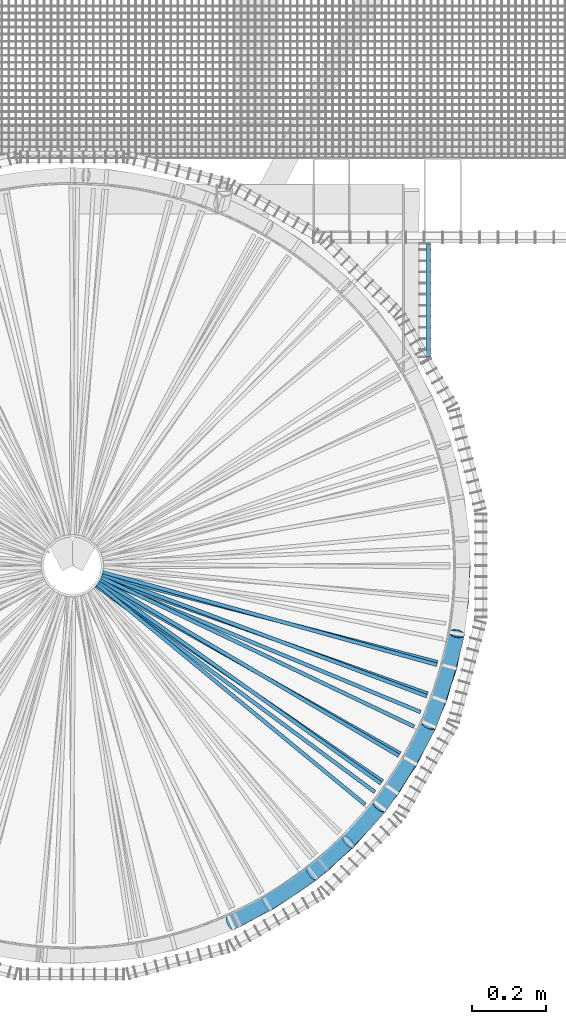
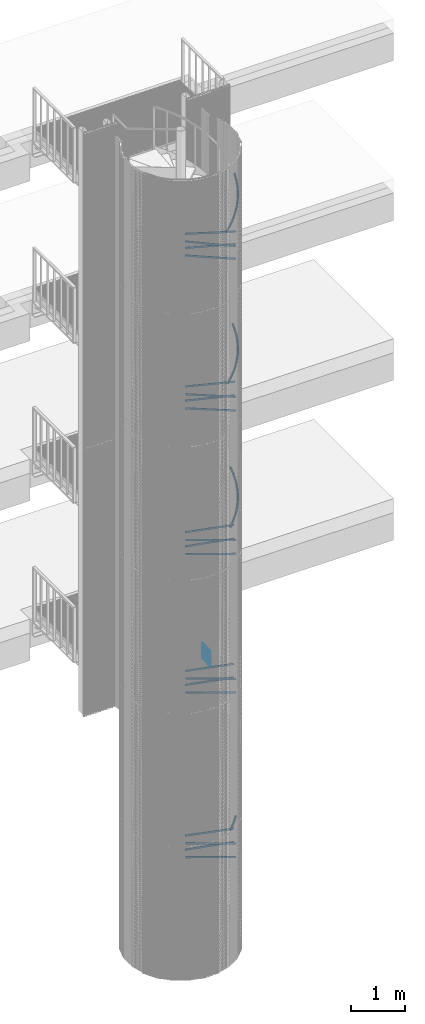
# One storey, part 260 of 1148: 28 beams, 13 members, 25 elements without a shape of their own.
"""IFC2X3 building model written with IfcOpenShell, lengths in millimetres."""

from ifc_helpers import new_model, entity, si_unit, frame, origin_with_axes, origin_2d_with_axis, place, context, subcontext, project, spatial, rectangle, extrude, material, type_object, element, aggregate, save


model = new_model("IFC2X3")

# Units and contexts
model_context = context("Model", 3, precision=1e-05, world=origin_with_axes())
body_context = subcontext(model_context, "Body", "Model", "MODEL_VIEW")
ifc_project = project(units=[si_unit("LENGTHUNIT", "METRE", prefix="MILLI"), si_unit("AREAUNIT", "SQUARE_METRE"), si_unit("VOLUMEUNIT", "CUBIC_METRE"), si_unit("MASSUNIT", "GRAM", prefix="KILO"), si_unit("TIMEUNIT", "SECOND"), si_unit("PLANEANGLEUNIT", "RADIAN"), si_unit("SOLIDANGLEUNIT", "STERADIAN"), si_unit("THERMODYNAMICTEMPERATUREUNIT", "DEGREE_CELSIUS"), si_unit("LUMINOUSINTENSITYUNIT", "LUMEN")], contexts=[model_context])

# Site, building, storey
site_placement = place(None, origin_with_axes())
site = spatial("IfcSite", under=ifc_project, at=site_placement, Name="Undefined", CompositionType="ELEMENT")
building_placement = place(site_placement, origin_with_axes())
building = spatial("IfcBuilding", under=site, at=building_placement, Name="Undefined", CompositionType="ELEMENT")
storey_placement = place(building_placement, origin_with_axes())
storey = spatial("IfcBuildingStorey", under=building, at=storey_placement, Name="Undefined", CompositionType="ELEMENT", Elevation=0.0)

# Assembly, beam
assembly_1_placement = place(storey_placement, origin_with_axes())
assembly_1 = element("IfcElementAssembly", 1, at=assembly_1_placement, inside=storey, AssemblyPlace="NOTDEFINED", PredefinedType="NOTDEFINED")
ifc_material = material(Name="STEEL/S235JR")
beam_type_1 = type_object("IfcBeamType", Name="PL2*10", PredefinedType="NOTDEFINED")
beam_1_placement = place(assembly_1_placement, frame((961.586915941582, 564.782669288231, 5950.0), z_axis=(1.0, 0.0, 0.0), x_axis=(0.0, 1.0, 0.0)))
beam_1 = element("IfcBeam", 2, at=beam_1_placement, type_object=beam_type_1, material=ifc_material, Name="ENTRETOISE", context=body_context, shape_type="SweptSolid", body=[
    extrude(rectangle(XDim=2.0, YDim=10.0, at=origin_2d_with_axis()), frame((303.999999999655, 0.0, 0.0), z_axis=(-1.0, 0.0, 0.0), x_axis=(0.0, -1.0, 0.0)), (0.0, 0.0, 1.0), 304.0),
])
aggregate(assembly_1, [beam_1])

assembly_2_placement = place(storey_placement, origin_with_axes())
assembly_2 = element("IfcElementAssembly", 3, at=assembly_2_placement, inside=storey, AssemblyPlace="NOTDEFINED", PredefinedType="NOTDEFINED")
beam_2_placement = place(assembly_2_placement, frame((961.586915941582, 564.782669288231, 5900.0), z_axis=(1.0, 0.0, 0.0), x_axis=(0.0, 1.0, 0.0)))
beam_2 = element("IfcBeam", 4, at=beam_2_placement, type_object=beam_type_1, material=ifc_material, Name="ENTRETOISE", context=body_context, shape_type="SweptSolid", body=[
    extrude(rectangle(XDim=2.0, YDim=10.0, at=origin_2d_with_axis()), frame((303.999999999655, 0.0, 0.0), z_axis=(-1.0, 0.0, 0.0), x_axis=(0.0, -1.0, 0.0)), (0.0, 0.0, 1.0), 304.0),
])
aggregate(assembly_2, [beam_2])

assembly_3_placement = place(storey_placement, origin_with_axes())
assembly_3 = element("IfcElementAssembly", 5, at=assembly_3_placement, inside=storey, AssemblyPlace="NOTDEFINED", PredefinedType="NOTDEFINED")
beam_3_placement = place(assembly_3_placement, frame((961.586915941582, 564.782669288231, 5850.0), z_axis=(1.0, 0.0, 0.0), x_axis=(0.0, 1.0, 0.0)))
beam_3 = element("IfcBeam", 6, at=beam_3_placement, type_object=beam_type_1, material=ifc_material, Name="ENTRETOISE", context=body_context, shape_type="SweptSolid", body=[
    extrude(rectangle(XDim=2.0, YDim=10.0, at=origin_2d_with_axis()), frame((303.999999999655, 0.0, 0.0), z_axis=(-1.0, 0.0, 0.0), x_axis=(0.0, -1.0, 0.0)), (0.0, 0.0, 1.0), 304.0),
])
aggregate(assembly_3, [beam_3])

assembly_4_placement = place(storey_placement, origin_with_axes())
assembly_4 = element("IfcElementAssembly", 7, at=assembly_4_placement, inside=storey, AssemblyPlace="NOTDEFINED", PredefinedType="NOTDEFINED")
beam_4_placement = place(assembly_4_placement, frame((961.586915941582, 564.782669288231, 5800.0), z_axis=(1.0, 0.0, 0.0), x_axis=(0.0, 1.0, 0.0)))
beam_4 = element("IfcBeam", 8, at=beam_4_placement, type_object=beam_type_1, material=ifc_material, Name="ENTRETOISE", context=body_context, shape_type="SweptSolid", body=[
    extrude(rectangle(XDim=2.0, YDim=10.0, at=origin_2d_with_axis()), frame((303.999999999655, 0.0, 0.0), z_axis=(-1.0, 0.0, 0.0), x_axis=(0.0, -1.0, 0.0)), (0.0, 0.0, 1.0), 304.0),
])
aggregate(assembly_4, [beam_4])

assembly_5_placement = place(storey_placement, origin_with_axes())
assembly_5 = element("IfcElementAssembly", 9, at=assembly_5_placement, inside=storey, AssemblyPlace="NOTDEFINED", PredefinedType="NOTDEFINED")
beam_5_placement = place(assembly_5_placement, frame((961.586915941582, 564.782669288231, 5750.0), z_axis=(1.0, 0.0, 0.0), x_axis=(0.0, 1.0, 0.0)))
beam_5 = element("IfcBeam", 10, at=beam_5_placement, type_object=beam_type_1, material=ifc_material, Name="ENTRETOISE", context=body_context, shape_type="SweptSolid", body=[
    extrude(rectangle(XDim=2.0, YDim=10.0, at=origin_2d_with_axis()), frame((303.999999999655, 0.0, 0.0), z_axis=(-1.0, 0.0, 0.0), x_axis=(0.0, -1.0, 0.0)), (0.0, 0.0, 1.0), 304.0),
])
aggregate(assembly_5, [beam_5])

assembly_6_placement = place(storey_placement, origin_with_axes())
assembly_6 = element("IfcElementAssembly", 11, at=assembly_6_placement, inside=storey, AssemblyPlace="NOTDEFINED", PredefinedType="NOTDEFINED")
beam_6_placement = place(assembly_6_placement, frame((961.586915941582, 564.782669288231, 5700.0), z_axis=(1.0, 0.0, 0.0), x_axis=(0.0, 1.0, 0.0)))
beam_6 = element("IfcBeam", 12, at=beam_6_placement, type_object=beam_type_1, material=ifc_material, Name="ENTRETOISE", context=body_context, shape_type="SweptSolid", body=[
    extrude(rectangle(XDim=2.0, YDim=10.0, at=origin_2d_with_axis()), frame((303.999999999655, 0.0, 0.0), z_axis=(-1.0, 0.0, 0.0), x_axis=(0.0, -1.0, 0.0)), (0.0, 0.0, 1.0), 304.0),
])
aggregate(assembly_6, [beam_6])

assembly_7_placement = place(storey_placement, origin_with_axes())
assembly_7 = element("IfcElementAssembly", 13, at=assembly_7_placement, inside=storey, AssemblyPlace="NOTDEFINED", PredefinedType="NOTDEFINED")
beam_7_placement = place(assembly_7_placement, frame((961.586915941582, 564.782669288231, 5650.0), z_axis=(1.0, 0.0, 0.0), x_axis=(0.0, 1.0, 0.0)))
beam_7 = element("IfcBeam", 14, at=beam_7_placement, type_object=beam_type_1, material=ifc_material, Name="ENTRETOISE", context=body_context, shape_type="SweptSolid", body=[
    extrude(rectangle(XDim=2.0, YDim=10.0, at=origin_2d_with_axis()), frame((303.999999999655, 0.0, 0.0), z_axis=(-1.0, 0.0, 0.0), x_axis=(0.0, -1.0, 0.0)), (0.0, 0.0, 1.0), 304.0),
])
aggregate(assembly_7, [beam_7])

assembly_8_placement = place(storey_placement, origin_with_axes())
assembly_8 = element("IfcElementAssembly", 15, at=assembly_8_placement, inside=storey, AssemblyPlace="NOTDEFINED", PredefinedType="NOTDEFINED")
beam_8_placement = place(assembly_8_placement, frame((961.586915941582, 564.782669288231, 5600.0), z_axis=(1.0, 0.0, 0.0), x_axis=(0.0, 1.0, 0.0)))
beam_8 = element("IfcBeam", 16, at=beam_8_placement, type_object=beam_type_1, material=ifc_material, Name="ENTRETOISE", context=body_context, shape_type="SweptSolid", body=[
    extrude(rectangle(XDim=2.0, YDim=10.0, at=origin_2d_with_axis()), frame((303.999999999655, 0.0, 0.0), z_axis=(-1.0, 0.0, 0.0), x_axis=(0.0, -1.0, 0.0)), (0.0, 0.0, 1.0), 304.0),
])
aggregate(assembly_8, [beam_8])

assembly_9_placement = place(storey_placement, origin_with_axes())
assembly_9 = element("IfcElementAssembly", 17, at=assembly_9_placement, inside=storey, Name="POTEAU", AssemblyPlace="NOTDEFINED", PredefinedType="NOTDEFINED")
beam_type_2 = type_object("IfcBeamType", Name="PL10*40", PredefinedType="NOTDEFINED")
beam_9_placement = place(assembly_9_placement, frame((74.8463745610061, -38.2598530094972, 6002.28000000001), z_axis=(0.0, 0.0, 1.0), x_axis=(0.861759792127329, -0.507316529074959, 0.0)))
beam_9 = element("IfcBeam", 18, at=beam_9_placement, type_object=beam_type_2, material=ifc_material, Name="RAIDISSEUR", context=body_context, shape_type="SweptSolid", body=[
    extrude(rectangle(XDim=10.0, YDim=40.0, at=origin_2d_with_axis()), frame((935.982964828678, -2.59787459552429e-14, -3.63797880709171e-12), z_axis=(-1.0, 0.0, 0.0), x_axis=(0.0, -1.0, 0.0)), (0.0, 0.0, 1.0), 935.98),
])

# Assembly, beams
assembly_10_placement = place(storey_placement, origin_with_axes())
assembly_10 = element("IfcElementAssembly", 19, at=assembly_10_placement, inside=storey, Name="POTEAU", AssemblyPlace="NOTDEFINED", PredefinedType="NOTDEFINED")
beam_10_placement = place(assembly_10_placement, frame((67.9397318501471, -49.4973632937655, 15857.28), z_axis=(0.0, 0.0, 1.0), x_axis=(0.771788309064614, -0.635879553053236, 0.0)))
beam_10 = element("IfcBeam", 20, at=beam_10_placement, type_object=beam_type_2, material=ifc_material, Name="RAIDISSEUR", context=body_context, shape_type="SweptSolid", body=[
    extrude(rectangle(XDim=10.0, YDim=40.0, at=origin_2d_with_axis()), frame((935.982964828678, -2.59787459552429e-14, -3.63797880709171e-12), z_axis=(-1.0, 0.0, 0.0), x_axis=(0.0, -1.0, 0.0)), (0.0, 0.0, 1.0), 935.98),
])
beam_11_placement = place(assembly_10_placement, frame((77.896127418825, -31.5909713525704, 16013.8), z_axis=(0.0, 0.0, 1.0), x_axis=(0.902696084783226, -0.430278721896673, 0.0)))
beam_11 = element("IfcBeam", 21, at=beam_11_placement, type_object=beam_type_2, material=ifc_material, Name="RAIDISSEUR", context=body_context, shape_type="SweptSolid", body=[
    extrude(rectangle(XDim=10.0, YDim=40.0, at=origin_2d_with_axis()), frame((935.982964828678, -2.59787459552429e-14, -3.63797880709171e-12), z_axis=(-1.0, 0.0, 0.0), x_axis=(0.0, -1.0, 0.0)), (0.0, 0.0, 1.0), 935.98),
])
beam_12_placement = place(assembly_10_placement, frame((64.4631887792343, -53.9471355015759, 15544.24), z_axis=(0.0, 0.0, 1.0), x_axis=(0.80370370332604, -0.595029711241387, 0.0)))
beam_12 = element("IfcBeam", 22, at=beam_12_placement, type_object=beam_type_2, material=ifc_material, Name="RAIDISSEUR", context=body_context, shape_type="SweptSolid", body=[
    extrude(rectangle(XDim=10.0, YDim=40.0, at=origin_2d_with_axis()), frame((935.982964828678, -2.59787459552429e-14, -3.63797880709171e-12), z_axis=(-1.0, 0.0, 0.0), x_axis=(0.0, -1.0, 0.0)), (0.0, 0.0, 1.0), 935.98),
])
beam_13_placement = place(assembly_10_placement, frame((75.5993498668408, -36.7496182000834, 15700.76), z_axis=(0.0, 0.0, 1.0), x_axis=(0.923780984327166, -0.382921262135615, 0.0)))
beam_13 = element("IfcBeam", 23, at=beam_13_placement, type_object=beam_type_2, material=ifc_material, Name="RAIDISSEUR", context=body_context, shape_type="SweptSolid", body=[
    extrude(rectangle(XDim=10.0, YDim=40.0, at=origin_2d_with_axis()), frame((935.982964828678, -2.59787459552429e-14, -3.63797880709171e-12), z_axis=(-1.0, 0.0, 0.0), x_axis=(0.0, -1.0, 0.0)), (0.0, 0.0, 1.0), 935.98),
])
aggregate(assembly_10, [beam_10, beam_11, beam_12, beam_13])

assembly_11_placement = place(storey_placement, origin_with_axes())
assembly_11 = element("IfcElementAssembly", 24, at=assembly_11_placement, inside=storey, Name="POTEAU", AssemblyPlace="NOTDEFINED", PredefinedType="NOTDEFINED")
beam_14_placement = place(assembly_11_placement, frame((66.3066474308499, -51.6645395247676, 12100.76), z_axis=(0.0, 0.0, 1.0), x_axis=(0.823980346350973, -0.56661838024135, 0.0)))
beam_14 = element("IfcBeam", 25, at=beam_14_placement, type_object=beam_type_2, material=ifc_material, Name="RAIDISSEUR", context=body_context, shape_type="SweptSolid", body=[
    extrude(rectangle(XDim=10.0, YDim=40.0, at=origin_2d_with_axis()), frame((935.982964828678, -2.59787459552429e-14, -3.63797880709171e-12), z_axis=(-1.0, 0.0, 0.0), x_axis=(0.0, -1.0, 0.0)), (0.0, 0.0, 1.0), 935.98),
])
beam_15_placement = place(assembly_11_placement, frame((71.2269955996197, -44.6375540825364, 12413.8), z_axis=(0.0, 0.0, 1.0), x_axis=(0.814264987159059, -0.580493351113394, 0.0)))
beam_15 = element("IfcBeam", 26, at=beam_15_placement, type_object=beam_type_2, material=ifc_material, Name="RAIDISSEUR", context=body_context, shape_type="SweptSolid", body=[
    extrude(rectangle(XDim=10.0, YDim=40.0, at=origin_2d_with_axis()), frame((935.982964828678, -2.59787459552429e-14, -3.63797880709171e-12), z_axis=(-1.0, 0.0, 0.0), x_axis=(0.0, -1.0, 0.0)), (0.0, 0.0, 1.0), 935.98),
])
beam_16_placement = place(assembly_11_placement, frame((80.3530437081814, -24.6816633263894, 12570.32), z_axis=(0.0, 0.0, 1.0), x_axis=(0.936762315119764, -0.349966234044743, 0.0)))
beam_16 = element("IfcBeam", 27, at=beam_16_placement, type_object=beam_type_2, material=ifc_material, Name="RAIDISSEUR", context=body_context, shape_type="SweptSolid", body=[
    extrude(rectangle(XDim=10.0, YDim=40.0, at=origin_2d_with_axis()), frame((935.982964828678, -2.59787459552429e-14, -3.63797880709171e-12), z_axis=(-1.0, 0.0, 0.0), x_axis=(0.0, -1.0, 0.0)), (0.0, 0.0, 1.0), 935.98),
])
beam_17_placement = place(assembly_11_placement, frame((77.4190699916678, -32.7426898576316, 12257.28), z_axis=(0.0, 0.0, 1.0), x_axis=(0.942555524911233, -0.33404952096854, 0.0)))
beam_17 = element("IfcBeam", 28, at=beam_17_placement, type_object=beam_type_2, material=ifc_material, Name="RAIDISSEUR", context=body_context, shape_type="SweptSolid", body=[
    extrude(rectangle(XDim=10.0, YDim=40.0, at=origin_2d_with_axis()), frame((935.982964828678, -2.59787459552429e-14, -3.63797880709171e-12), z_axis=(-1.0, 0.0, 0.0), x_axis=(0.0, -1.0, 0.0)), (0.0, 0.0, 1.0), 935.98),
])
aggregate(assembly_11, [beam_14, beam_15, beam_16, beam_17])

assembly_12_placement = place(storey_placement, origin_with_axes())
assembly_12 = element("IfcElementAssembly", 29, at=assembly_12_placement, inside=storey, Name="POTEAU", AssemblyPlace="NOTDEFINED", PredefinedType="NOTDEFINED")
beam_18_placement = place(assembly_12_placement, frame((79.978180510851, -25.8705774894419, 8970.32000000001), z_axis=(0.0, 0.0, 1.0), x_axis=(0.968083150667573, -0.250629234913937, 0.0)))
beam_18 = element("IfcBeam", 30, at=beam_18_placement, type_object=beam_type_2, material=ifc_material, Name="RAIDISSEUR", context=body_context, shape_type="SweptSolid", body=[
    extrude(rectangle(XDim=10.0, YDim=40.0, at=origin_2d_with_axis()), frame((935.982964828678, -2.59787459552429e-14, -3.63797880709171e-12), z_axis=(-1.0, 0.0, 0.0), x_axis=(0.0, -1.0, 0.0)), (0.0, 0.0, 1.0), 935.98),
])
beam_19_placement = place(assembly_12_placement, frame((74.8463745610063, -38.2598530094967, 9126.84000000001), z_axis=(0.0, 0.0, 1.0), x_axis=(0.861759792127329, -0.507316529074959, 0.0)))
beam_19 = element("IfcBeam", 31, at=beam_19_placement, type_object=beam_type_2, material=ifc_material, Name="RAIDISSEUR", context=body_context, shape_type="SweptSolid", body=[
    extrude(rectangle(XDim=10.0, YDim=40.0, at=origin_2d_with_axis()), frame((935.982964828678, -2.59787459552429e-14, -3.63797880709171e-12), z_axis=(-1.0, 0.0, 0.0), x_axis=(0.0, -1.0, 0.0)), (0.0, 0.0, 1.0), 935.98),
])
beam_20_placement = place(assembly_12_placement, frame((70.5571919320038, -45.6889352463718, 8813.80000000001), z_axis=(0.0, 0.0, 1.0), x_axis=(0.870228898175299, -0.492647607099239, 0.0)))
beam_20 = element("IfcBeam", 32, at=beam_20_placement, type_object=beam_type_2, material=ifc_material, Name="RAIDISSEUR", context=body_context, shape_type="SweptSolid", body=[
    extrude(rectangle(XDim=10.0, YDim=40.0, at=origin_2d_with_axis()), frame((935.982964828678, -2.59787459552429e-14, -3.63797880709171e-12), z_axis=(-1.0, 0.0, 0.0), x_axis=(0.0, -1.0, 0.0)), (0.0, 0.0, 1.0), 935.98),
])
beam_21_placement = place(assembly_12_placement, frame((82.1984248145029, -17.584512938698, 9283.36000000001), z_axis=(0.0, 0.0, 1.0), x_axis=(0.963699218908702, -0.266990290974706, 0.0)))
beam_21 = element("IfcBeam", 33, at=beam_21_placement, type_object=beam_type_2, material=ifc_material, Name="RAIDISSEUR", context=body_context, shape_type="SweptSolid", body=[
    extrude(rectangle(XDim=10.0, YDim=40.0, at=origin_2d_with_axis()), frame((935.982964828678, -2.59787459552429e-14, -3.63797880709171e-12), z_axis=(-1.0, 0.0, 0.0), x_axis=(0.0, -1.0, 0.0)), (0.0, 0.0, 1.0), 935.98),
])
aggregate(assembly_12, [beam_18, beam_19, beam_20, beam_21])

# Beam
beam_22_placement = place(assembly_9_placement, frame((79.9781805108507, -25.8705774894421, 2139.28), z_axis=(0.0, 0.0, 1.0), x_axis=(0.968083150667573, -0.250629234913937, 0.0)))
beam_22 = element("IfcBeam", 34, at=beam_22_placement, type_object=beam_type_2, material=ifc_material, Name="RAIDISSEUR", context=body_context, shape_type="SweptSolid", body=[
    extrude(rectangle(XDim=10.0, YDim=40.0, at=origin_2d_with_axis()), frame((935.982964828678, -2.59787459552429e-14, -3.63797880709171e-12), z_axis=(-1.0, 0.0, 0.0), x_axis=(0.0, -1.0, 0.0)), (0.0, 0.0, 1.0), 935.98),
])

beam_23_placement = place(assembly_9_placement, frame((70.5571919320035, -45.6889352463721, 5693.24), z_axis=(0.0, 0.0, 1.0), x_axis=(0.870228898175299, -0.492647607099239, 0.0)))
beam_23 = element("IfcBeam", 35, at=beam_23_placement, type_object=beam_type_2, material=ifc_material, Name="RAIDISSEUR", context=body_context, shape_type="SweptSolid", body=[
    extrude(rectangle(XDim=10.0, YDim=40.0, at=origin_2d_with_axis()), frame((935.982964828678, -2.59787459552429e-14, -3.63797880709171e-12), z_axis=(-1.0, 0.0, 0.0), x_axis=(0.0, -1.0, 0.0)), (0.0, 0.0, 1.0), 935.98),
])

beam_24_placement = place(assembly_9_placement, frame((70.5571919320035, -45.6889352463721, 1984.76), z_axis=(0.0, 0.0, 1.0), x_axis=(0.870228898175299, -0.492647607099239, 0.0)))
beam_24 = element("IfcBeam", 36, at=beam_24_placement, type_object=beam_type_2, material=ifc_material, Name="RAIDISSEUR", context=body_context, shape_type="SweptSolid", body=[
    extrude(rectangle(XDim=10.0, YDim=40.0, at=origin_2d_with_axis()), frame((935.982964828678, -2.59787459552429e-14, -3.63797880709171e-12), z_axis=(-1.0, 0.0, 0.0), x_axis=(0.0, -1.0, 0.0)), (0.0, 0.0, 1.0), 935.98),
])

beam_25_placement = place(assembly_9_placement, frame((74.8463745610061, -38.2598530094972, 2293.8), z_axis=(0.0, 0.0, 1.0), x_axis=(0.861759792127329, -0.507316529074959, 0.0)))
beam_25 = element("IfcBeam", 37, at=beam_25_placement, type_object=beam_type_2, material=ifc_material, Name="RAIDISSEUR", context=body_context, shape_type="SweptSolid", body=[
    extrude(rectangle(XDim=10.0, YDim=40.0, at=origin_2d_with_axis()), frame((935.982964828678, -2.59787459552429e-14, -3.63797880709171e-12), z_axis=(-1.0, 0.0, 0.0), x_axis=(0.0, -1.0, 0.0)), (0.0, 0.0, 1.0), 935.98),
])

beam_26_placement = place(assembly_9_placement, frame((82.1984248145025, -17.5845129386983, 2448.32), z_axis=(0.0, 0.0, 1.0), x_axis=(0.963699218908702, -0.266990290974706, 0.0)))
beam_26 = element("IfcBeam", 38, at=beam_26_placement, type_object=beam_type_2, material=ifc_material, Name="RAIDISSEUR", context=body_context, shape_type="SweptSolid", body=[
    extrude(rectangle(XDim=10.0, YDim=40.0, at=origin_2d_with_axis()), frame((935.982964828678, -2.59787459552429e-14, -3.63797880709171e-12), z_axis=(-1.0, 0.0, 0.0), x_axis=(0.0, -1.0, 0.0)), (0.0, 0.0, 1.0), 935.98),
])

beam_27_placement = place(assembly_9_placement, frame((79.9781805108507, -25.8705774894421, 5847.76), z_axis=(0.0, 0.0, 1.0), x_axis=(0.968083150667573, -0.250629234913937, 0.0)))
beam_27 = element("IfcBeam", 39, at=beam_27_placement, type_object=beam_type_2, material=ifc_material, Name="RAIDISSEUR", context=body_context, shape_type="SweptSolid", body=[
    extrude(rectangle(XDim=10.0, YDim=40.0, at=origin_2d_with_axis()), frame((935.982964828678, -2.59787459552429e-14, -3.63797880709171e-12), z_axis=(-1.0, 0.0, 0.0), x_axis=(0.0, -1.0, 0.0)), (0.0, 0.0, 1.0), 935.98),
])

beam_28_placement = place(assembly_9_placement, frame((82.1984248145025, -17.5845129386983, 6156.80000000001), z_axis=(0.0, 0.0, 1.0), x_axis=(0.963699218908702, -0.266990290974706, 0.0)))
beam_28 = element("IfcBeam", 40, at=beam_28_placement, type_object=beam_type_2, material=ifc_material, Name="RAIDISSEUR", context=body_context, shape_type="SweptSolid", body=[
    extrude(rectangle(XDim=10.0, YDim=40.0, at=origin_2d_with_axis()), frame((935.982964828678, -2.59787459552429e-14, -3.63797880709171e-12), z_axis=(-1.0, 0.0, 0.0), x_axis=(0.0, -1.0, 0.0)), (0.0, 0.0, 1.0), 935.98),
])

aggregate(assembly_9, [beam_9, beam_22, beam_23, beam_24, beam_25, beam_26, beam_27, beam_28])

# Assembly, member
assembly_13_placement = place(storey_placement, origin_with_axes())
assembly_13 = element("IfcElementAssembly", 41, at=assembly_13_placement, inside=storey, Name="MONTANT", AssemblyPlace="NOTDEFINED", PredefinedType="NOTDEFINED")
member_type = type_object("IfcMemberType", Name="TUBE-42.4*3.2", PredefinedType="NOTDEFINED")
member_1_placement = place(assembly_13_placement, frame((527.000000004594, -912.790775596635, 2954.23999999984), z_axis=(0.608761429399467, -0.793353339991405, -1.80915776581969e-10), x_axis=(0.691737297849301, 0.530788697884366, 0.489655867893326)))
member_1 = element("IfcMember", 42, at=member_1_placement, type_object=member_type, material=ifc_material, Name="MAIN_COURANTE", context=body_context, shape_type="SweptSolid", body=[
    entity("IfcRevolvedAreaSolid", entity("IfcCircleHollowProfileDef", "AREA", None, entity("IfcAxis2Placement2D", entity("IfcCartesianPoint", [0.0, 0.0]), entity("IfcDirection", [1.0, 0.0])), 21.200000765, 3.200000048), entity("IfcAxis2Placement3D", entity("IfcCartesianPoint", [315.568566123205, -9.09494701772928e-13, -1.31255851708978e-15]), entity("IfcDirection", [-0.997194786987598, -4.44488503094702e-18, 0.0748502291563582]), entity("IfcDirection", [0.0, -1.0, 0.0])), entity("IfcAxis1Placement", entity("IfcCartesianPoint", [0.0, -2108.0, 0.0]), entity("IfcDirection", [1.0, 0.0, 0.0])), 0.149840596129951),
])
aggregate(assembly_13, [member_1])

assembly_14_placement = place(storey_placement, origin_with_axes())
assembly_14 = element("IfcElementAssembly", 43, at=assembly_14_placement, inside=storey, Name="MONTANT", AssemblyPlace="NOTDEFINED", PredefinedType="NOTDEFINED")
member_2_placement = place(assembly_14_placement, frame((1018.08582091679, -272.795273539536, 10250.8400000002), z_axis=(0.991444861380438, -0.130526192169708, 6.66032065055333e-11), x_axis=(0.113454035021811, 0.861768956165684, 0.494451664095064)))
member_2 = element("IfcMember", 44, at=member_2_placement, type_object=member_type, material=ifc_material, Name="MAIN_COURANTE", context=body_context, shape_type="SweptSolid", body=[
    entity("IfcRevolvedAreaSolid", entity("IfcCircleHollowProfileDef", "AREA", None, entity("IfcAxis2Placement2D", entity("IfcCartesianPoint", [0.0, 0.0]), entity("IfcDirection", [1.0, 0.0])), 21.200000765, 3.200000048), entity("IfcAxis2Placement3D", entity("IfcCartesianPoint", [316.552681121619, 9.09494701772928e-13, -1.82569453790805e-12]), entity("IfcDirection", [-0.997177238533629, 2.1263748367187e-18, 0.0750836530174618]), entity("IfcDirection", [0.0, -1.0, 0.0])), entity("IfcAxis1Placement", entity("IfcCartesianPoint", [0.0, -2108.0, 0.0]), entity("IfcDirection", [1.0, 0.0, 0.0])), 0.150308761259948),
])
aggregate(assembly_14, [member_2])

assembly_15_placement = place(storey_placement, origin_with_axes())
assembly_15 = element("IfcElementAssembly", 45, at=assembly_15_placement, inside=storey, Name="MONTANT", AssemblyPlace="NOTDEFINED", PredefinedType="NOTDEFINED")
member_3_placement = place(assembly_15_placement, frame((912.790775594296, -527.000000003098, 10094.3199999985), z_axis=(0.92387953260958, -0.382683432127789, 1.50206687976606e-10), x_axis=(0.332630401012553, 0.803040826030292, 0.494451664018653)))
member_3 = element("IfcMember", 46, at=member_3_placement, type_object=member_type, material=ifc_material, Name="MAIN_COURANTE", context=body_context, shape_type="SweptSolid", body=[
    entity("IfcRevolvedAreaSolid", entity("IfcCircleHollowProfileDef", "AREA", None, entity("IfcAxis2Placement2D", entity("IfcCartesianPoint", [0.0, 0.0]), entity("IfcDirection", [1.0, 0.0])), 21.200000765, 3.200000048), entity("IfcAxis2Placement3D", entity("IfcCartesianPoint", [316.552681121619, 9.09494701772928e-13, -1.82569453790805e-12]), entity("IfcDirection", [-0.997177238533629, 2.1263748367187e-18, 0.0750836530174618]), entity("IfcDirection", [0.0, -1.0, 0.0])), entity("IfcAxis1Placement", entity("IfcCartesianPoint", [0.0, -2108.0, 0.0]), entity("IfcDirection", [1.0, 0.0, 0.0])), 0.150308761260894),
])
aggregate(assembly_15, [member_3])

assembly_16_placement = place(storey_placement, origin_with_axes())
assembly_16 = element("IfcElementAssembly", 47, at=assembly_16_placement, inside=storey, Name="MONTANT", AssemblyPlace="NOTDEFINED", PredefinedType="NOTDEFINED")
member_4_placement = place(assembly_16_placement, frame((745.290547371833, -745.290547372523, 9937.79999999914), z_axis=(0.793353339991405, -0.608761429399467, 1.80915776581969e-10), x_axis=(0.529138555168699, 0.689586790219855, 0.49445166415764)))
member_4 = element("IfcMember", 48, at=member_4_placement, type_object=member_type, material=ifc_material, Name="MAIN_COURANTE", context=body_context, shape_type="SweptSolid", body=[
    entity("IfcRevolvedAreaSolid", entity("IfcCircleHollowProfileDef", "AREA", None, entity("IfcAxis2Placement2D", entity("IfcCartesianPoint", [0.0, 0.0]), entity("IfcDirection", [1.0, 0.0])), 21.200000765, 3.200000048), entity("IfcAxis2Placement3D", entity("IfcCartesianPoint", [316.552681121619, 9.09494701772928e-13, -1.82569453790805e-12]), entity("IfcDirection", [-0.997177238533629, 2.1263748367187e-18, 0.0750836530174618]), entity("IfcDirection", [0.0, -1.0, 0.0])), entity("IfcAxis1Placement", entity("IfcCartesianPoint", [0.0, -2108.0, 0.0]), entity("IfcDirection", [1.0, 0.0, 0.0])), 0.150308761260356),
])
aggregate(assembly_16, [member_4])

assembly_17_placement = place(storey_placement, origin_with_axes())
assembly_17 = element("IfcElementAssembly", 49, at=assembly_17_placement, inside=storey, Name="MONTANT", AssemblyPlace="NOTDEFINED", PredefinedType="NOTDEFINED")
member_5_placement = place(assembly_17_placement, frame((527.000000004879, -912.790775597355, 9781.28000000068), z_axis=(0.608761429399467, -0.793353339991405, -1.80915776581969e-10), x_axis=(0.689586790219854, 0.529138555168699, 0.494451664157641)))
member_5 = element("IfcMember", 50, at=member_5_placement, type_object=member_type, material=ifc_material, Name="MAIN_COURANTE", context=body_context, shape_type="SweptSolid", body=[
    entity("IfcRevolvedAreaSolid", entity("IfcCircleHollowProfileDef", "AREA", None, entity("IfcAxis2Placement2D", entity("IfcCartesianPoint", [0.0, 0.0]), entity("IfcDirection", [1.0, 0.0])), 21.200000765, 3.200000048), entity("IfcAxis2Placement3D", entity("IfcCartesianPoint", [316.552681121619, 9.09494701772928e-13, -1.82569453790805e-12]), entity("IfcDirection", [-0.997177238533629, 2.1263748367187e-18, 0.0750836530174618]), entity("IfcDirection", [0.0, -1.0, 0.0])), entity("IfcAxis1Placement", entity("IfcCartesianPoint", [0.0, -2108.0, 0.0]), entity("IfcDirection", [1.0, 0.0, 0.0])), 0.150308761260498),
])
aggregate(assembly_17, [member_5])

assembly_18_placement = place(storey_placement, origin_with_axes())
assembly_18 = element("IfcElementAssembly", 51, at=assembly_18_placement, inside=storey, Name="MONTANT", AssemblyPlace="NOTDEFINED", PredefinedType="NOTDEFINED")
member_6_placement = place(assembly_18_placement, frame((990.436022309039, -360.489231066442, 13537.8000000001), z_axis=(0.97629600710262, -0.216439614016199, 3.63797880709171e-12), x_axis=(0.188130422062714, 0.848601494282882, 0.494451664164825)))
member_6 = element("IfcMember", 52, at=member_6_placement, type_object=member_type, material=ifc_material, Name="MAIN_COURANTE", context=body_context, shape_type="SweptSolid", body=[
    entity("IfcRevolvedAreaSolid", entity("IfcCircleHollowProfileDef", "AREA", None, entity("IfcAxis2Placement2D", entity("IfcCartesianPoint", [0.0, 0.0]), entity("IfcDirection", [1.0, 0.0])), 21.200000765, 3.200000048), entity("IfcAxis2Placement3D", entity("IfcCartesianPoint", [316.552681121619, 9.09494701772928e-13, -1.82569453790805e-12]), entity("IfcDirection", [-0.997177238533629, 2.1263748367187e-18, 0.0750836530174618]), entity("IfcDirection", [0.0, -1.0, 0.0])), entity("IfcAxis1Placement", entity("IfcCartesianPoint", [0.0, -2108.0, 0.0]), entity("IfcDirection", [1.0, 0.0, 0.0])), 0.150308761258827),
])
aggregate(assembly_18, [member_6])

assembly_19_placement = place(storey_placement, origin_with_axes())
assembly_19 = element("IfcElementAssembly", 53, at=assembly_19_placement, inside=storey, Name="MONTANT", AssemblyPlace="NOTDEFINED", PredefinedType="NOTDEFINED")
member_7_placement = place(assembly_19_placement, frame((863.386254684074, -604.549563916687, 13381.2799999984), z_axis=(0.887010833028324, -0.461748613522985, -2.56448402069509e-10), x_axis=(0.40135426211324, 0.770994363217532, 0.494451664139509)))
member_7 = element("IfcMember", 54, at=member_7_placement, type_object=member_type, material=ifc_material, Name="MAIN_COURANTE", context=body_context, shape_type="SweptSolid", body=[
    entity("IfcRevolvedAreaSolid", entity("IfcCircleHollowProfileDef", "AREA", None, entity("IfcAxis2Placement2D", entity("IfcCartesianPoint", [0.0, 0.0]), entity("IfcDirection", [1.0, 0.0])), 21.200000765, 3.200000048), entity("IfcAxis2Placement3D", entity("IfcCartesianPoint", [316.552681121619, 9.09494701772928e-13, -1.82569453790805e-12]), entity("IfcDirection", [-0.997177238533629, 2.1263748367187e-18, 0.0750836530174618]), entity("IfcDirection", [0.0, -1.0, 0.0])), entity("IfcAxis1Placement", entity("IfcCartesianPoint", [0.0, -2108.0, 0.0]), entity("IfcDirection", [1.0, 0.0, 0.0])), 0.150308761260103),
])
aggregate(assembly_19, [member_7])

assembly_20_placement = place(storey_placement, origin_with_axes())
assembly_20 = element("IfcElementAssembly", 55, at=assembly_20_placement, inside=storey, Name="MONTANT", AssemblyPlace="NOTDEFINED", PredefinedType="NOTDEFINED")
member_8_placement = place(assembly_20_placement, frame((677.4981406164, -807.410843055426, 13224.7600000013), z_axis=(0.737277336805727, -0.675590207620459, 8.45193426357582e-11), x_axis=(0.587226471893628, 0.640845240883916, 0.494451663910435)))
member_8 = element("IfcMember", 56, at=member_8_placement, type_object=member_type, material=ifc_material, Name="MAIN_COURANTE", context=body_context, shape_type="SweptSolid", body=[
    entity("IfcRevolvedAreaSolid", entity("IfcCircleHollowProfileDef", "AREA", None, entity("IfcAxis2Placement2D", entity("IfcCartesianPoint", [0.0, 0.0]), entity("IfcDirection", [1.0, 0.0])), 21.200000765, 3.200000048), entity("IfcAxis2Placement3D", entity("IfcCartesianPoint", [316.552681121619, 9.09494701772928e-13, -1.82569453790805e-12]), entity("IfcDirection", [-0.997177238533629, 2.1263748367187e-18, 0.0750836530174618]), entity("IfcDirection", [0.0, -1.0, 0.0])), entity("IfcAxis1Placement", entity("IfcCartesianPoint", [0.0, -2108.0, 0.0]), entity("IfcDirection", [1.0, 0.0, 0.0])), 0.15030876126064),
])
aggregate(assembly_20, [member_8])

assembly_21_placement = place(storey_placement, origin_with_axes())
assembly_21 = element("IfcElementAssembly", 57, at=assembly_21_placement, inside=storey, Name="MONTANT", AssemblyPlace="NOTDEFINED", PredefinedType="NOTDEFINED")
member_9_placement = place(assembly_21_placement, frame((445.439647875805, -955.248407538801, 13068.2400000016), z_axis=(0.537299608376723, -0.843391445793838, 2.43751856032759e-10), x_axis=(0.733080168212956, 0.467023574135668, 0.494451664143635)))
member_9 = element("IfcMember", 58, at=member_9_placement, type_object=member_type, material=ifc_material, Name="MAIN_COURANTE", context=body_context, shape_type="SweptSolid", body=[
    entity("IfcRevolvedAreaSolid", entity("IfcCircleHollowProfileDef", "AREA", None, entity("IfcAxis2Placement2D", entity("IfcCartesianPoint", [0.0, 0.0]), entity("IfcDirection", [1.0, 0.0])), 21.200000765, 3.200000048), entity("IfcAxis2Placement3D", entity("IfcCartesianPoint", [316.552681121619, 9.09494701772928e-13, -1.82569453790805e-12]), entity("IfcDirection", [-0.997177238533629, 2.1263748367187e-18, 0.0750836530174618]), entity("IfcDirection", [0.0, -1.0, 0.0])), entity("IfcAxis1Placement", entity("IfcCartesianPoint", [0.0, -2108.0, 0.0]), entity("IfcDirection", [1.0, 0.0, 0.0])), 0.150308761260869),
])
aggregate(assembly_21, [member_9])

assembly_22_placement = place(storey_placement, origin_with_axes())
assembly_22 = element("IfcElementAssembly", 59, at=assembly_22_placement, inside=storey, Name="MONTANT", AssemblyPlace="NOTDEFINED", PredefinedType="NOTDEFINED")
member_10_placement = place(assembly_22_placement, frame((962.876912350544, -428.700421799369, 16981.2800000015), z_axis=(0.956304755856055, -0.292371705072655, -6.79719960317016e-11), x_axis=(0.249680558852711, 0.816668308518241, 0.520300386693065)))
member_10 = element("IfcMember", 60, at=member_10_placement, type_object=member_type, material=ifc_material, Name="MAIN_COURANTE", context=body_context, shape_type="SweptSolid", body=[
    entity("IfcRevolvedAreaSolid", entity("IfcCircleHollowProfileDef", "AREA", None, entity("IfcAxis2Placement2D", entity("IfcCartesianPoint", [0.0, 0.0]), entity("IfcDirection", [1.0, 0.0])), 21.200000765, 3.200000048), entity("IfcAxis2Placement3D", entity("IfcCartesianPoint", [300.826222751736, 9.26193911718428e-13, -2.55538133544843e-15]), entity("IfcDirection", [-0.997451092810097, -5.56582410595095e-17, 0.0713534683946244]), entity("IfcDirection", [0.0, -1.0, 0.0])), entity("IfcAxis1Placement", entity("IfcCartesianPoint", [0.0, -2108.0, 0.0]), entity("IfcDirection", [1.0, 0.0, 0.0])), 0.142828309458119),
])
aggregate(assembly_22, [member_10])

assembly_23_placement = place(storey_placement, origin_with_axes())
assembly_23 = element("IfcElementAssembly", 61, at=assembly_23_placement, inside=storey, Name="MONTANT", AssemblyPlace="NOTDEFINED", PredefinedType="NOTDEFINED")
member_11_placement = place(assembly_23_placement, frame((830.56333431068, -648.90719499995, 16824.7600000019), z_axis=(0.857167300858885, -0.51503807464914, 1.38952600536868e-10), x_axis=(0.439833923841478, 0.732006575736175, 0.520300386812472)))
member_11 = element("IfcMember", 62, at=member_11_placement, type_object=member_type, material=ifc_material, Name="MAIN_COURANTE", context=body_context, shape_type="SweptSolid", body=[
    entity("IfcRevolvedAreaSolid", entity("IfcCircleHollowProfileDef", "AREA", None, entity("IfcAxis2Placement2D", entity("IfcCartesianPoint", [0.0, 0.0]), entity("IfcDirection", [1.0, 0.0])), 21.200000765, 3.200000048), entity("IfcAxis2Placement3D", entity("IfcCartesianPoint", [300.826222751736, 9.26193911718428e-13, -2.55538133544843e-15]), entity("IfcDirection", [-0.997451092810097, -5.56582410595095e-17, 0.0713534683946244]), entity("IfcDirection", [0.0, -1.0, 0.0])), entity("IfcAxis1Placement", entity("IfcCartesianPoint", [0.0, -2108.0, 0.0]), entity("IfcDirection", [1.0, 0.0, 0.0])), 0.142828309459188),
])
aggregate(assembly_23, [member_11])

assembly_24_placement = place(storey_placement, origin_with_axes())
assembly_24 = element("IfcElementAssembly", 63, at=assembly_24_placement, inside=storey, Name="MONTANT", AssemblyPlace="NOTDEFINED", PredefinedType="NOTDEFINED")
member_12_placement = place(assembly_24_placement, frame((648.907194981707, -830.563334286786, 16668.2400000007), z_axis=(0.707106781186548, -0.707106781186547, 0.0), x_axis=(0.603857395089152, 0.603857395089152, 0.520300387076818)))
member_12 = element("IfcMember", 64, at=member_12_placement, type_object=member_type, material=ifc_material, Name="MAIN_COURANTE", context=body_context, shape_type="SweptSolid", body=[
    entity("IfcRevolvedAreaSolid", entity("IfcCircleHollowProfileDef", "AREA", None, entity("IfcAxis2Placement2D", entity("IfcCartesianPoint", [0.0, 0.0]), entity("IfcDirection", [1.0, 0.0])), 21.200000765, 3.200000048), entity("IfcAxis2Placement3D", entity("IfcCartesianPoint", [300.826222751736, 9.26193911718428e-13, -2.55538133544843e-15]), entity("IfcDirection", [-0.997451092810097, -5.56582410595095e-17, 0.0713534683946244]), entity("IfcDirection", [0.0, -1.0, 0.0])), entity("IfcAxis1Placement", entity("IfcCartesianPoint", [0.0, -2108.0, 0.0]), entity("IfcDirection", [1.0, 0.0, 0.0])), 0.142828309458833),
])
aggregate(assembly_24, [member_12])

assembly_25_placement = place(storey_placement, origin_with_axes())
assembly_25 = element("IfcElementAssembly", 65, at=assembly_25_placement, inside=storey, Name="MONTANT", AssemblyPlace="NOTDEFINED", PredefinedType="NOTDEFINED")
member_13_placement = place(assembly_25_placement, frame((428.700421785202, -962.87691231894, 16511.7200000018), z_axis=(0.51503807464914, -0.857167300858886, -1.38952600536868e-10), x_axis=(0.732006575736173, 0.439833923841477, 0.520300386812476)))
member_13 = element("IfcMember", 66, at=member_13_placement, type_object=member_type, material=ifc_material, Name="MAIN_COURANTE", context=body_context, shape_type="SweptSolid", body=[
    entity("IfcRevolvedAreaSolid", entity("IfcCircleHollowProfileDef", "AREA", None, entity("IfcAxis2Placement2D", entity("IfcCartesianPoint", [0.0, 0.0]), entity("IfcDirection", [1.0, 0.0])), 21.200000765, 3.200000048), entity("IfcAxis2Placement3D", entity("IfcCartesianPoint", [300.826222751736, 9.26193911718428e-13, -2.55538133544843e-15]), entity("IfcDirection", [-0.997451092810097, -5.56582410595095e-17, 0.0713534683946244]), entity("IfcDirection", [0.0, -1.0, 0.0])), entity("IfcAxis1Placement", entity("IfcCartesianPoint", [0.0, -2108.0, 0.0]), entity("IfcDirection", [1.0, 0.0, 0.0])), 0.142828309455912),
])
aggregate(assembly_25, [member_13])

save(model, "model.ifc")
